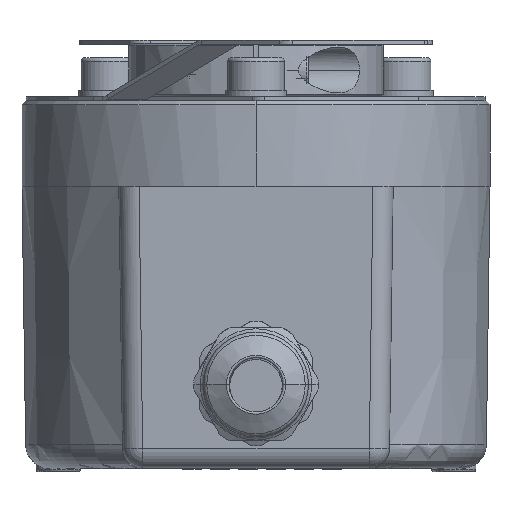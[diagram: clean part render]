
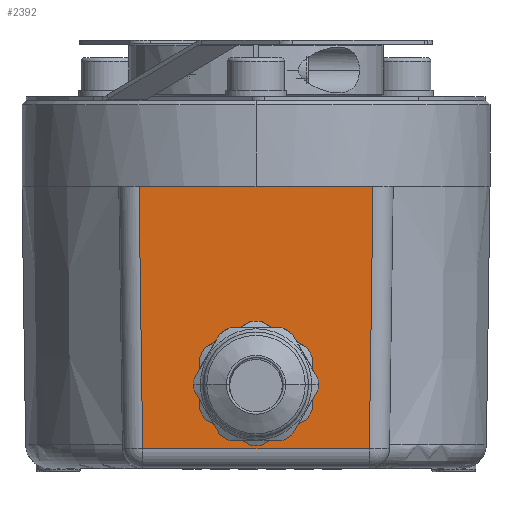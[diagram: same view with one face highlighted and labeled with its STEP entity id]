
A CAD part, front view. The second image highlights one B-rep face of the part: STEP entity #2392.
In plain terms, the highlighted planar face has unit normal (0, -1, -0.014).
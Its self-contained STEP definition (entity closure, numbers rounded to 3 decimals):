
#267 = EDGE_CURVE ( 'NONE', #4330, #6310, #12661, .T. ) ;
#463 = CARTESIAN_POINT ( 'NONE',  ( -4.387, -28.613, 7.283 ) ) ;
#478 = EDGE_CURVE ( 'NONE', #2492, #3950, #2635, .T. ) ;
#880 =( BOUNDED_CURVE ( )  B_SPLINE_CURVE ( 3, ( #10023, #3351, #15225, #4719, #2152, #3597, #7373 ),
 .UNSPECIFIED., .F., .F. ) 
 B_SPLINE_CURVE_WITH_KNOTS ( ( 4, 3, 4 ),
 ( 0.868, 3.142, 5.415 ),
 .UNSPECIFIED. ) 
 CURVE ( )  GEOMETRIC_REPRESENTATION_ITEM ( )  RATIONAL_B_SPLINE_CURVE ( ( 1., 0.614, 0.614, 1., 0.614, 0.614, 1. ) ) 
 REPRESENTATION_ITEM ( '' )  );
#2152 = CARTESIAN_POINT ( 'NONE',  ( -5.668, -28.745, 16.75 ) ) ;
#2298 = AXIS2_PLACEMENT_3D ( 'NONE', #11413, #9891, #15089 ) ;
#2299 = LINE ( 'NONE', #15295, #13174 ) ;
#2392 = ADVANCED_FACE ( 'NONE', ( #12546, #4999 ), #12629, .T. ) ;
#2492 = VERTEX_POINT ( 'NONE', #5953 ) ;
#2635 = LINE ( 'NONE', #16810, #6123 ) ;
#2807 = DIRECTION ( 'NONE',  ( 0., -1., -0.014 ) ) ;
#3170 = VERTEX_POINT ( 'NONE', #12420 ) ;
#3351 = CARTESIAN_POINT ( 'NONE',  ( 8.051, -28.673, 11.608 ) ) ;
#3597 = CARTESIAN_POINT ( 'NONE',  ( -8.051, -28.673, 11.608 ) ) ;
#3946 = VERTEX_POINT ( 'NONE', #463 ) ;
#3950 = VERTEX_POINT ( 'NONE', #16098 ) ;
#4330 = VERTEX_POINT ( 'NONE', #8226 ) ;
#4589 = VECTOR ( 'NONE', #5227, 1000. ) ;
#4719 = CARTESIAN_POINT ( 'NONE',  ( 0., -28.745, 16.75 ) ) ;
#4999 = FACE_OUTER_BOUND ( 'NONE', #10737, .T. ) ;
#5227 = DIRECTION ( 'NONE',  ( 1., 0., 0. ) ) ;
#5577 = CARTESIAN_POINT ( 'NONE',  ( 14.5, -29., 35. ) ) ;
#5953 = CARTESIAN_POINT ( 'NONE',  ( -14.5, -29., 35. ) ) ;
#6123 = VECTOR ( 'NONE', #9136, 1000. ) ;
#6232 = DIRECTION ( 'NONE',  ( 0.014, -0.014, 1. ) ) ;
#6310 = VERTEX_POINT ( 'NONE', #11227 ) ;
#7134 = LINE ( 'NONE', #16262, #9018 ) ;
#7342 = ORIENTED_EDGE ( 'NONE', *, *, #11830, .F. ) ;
#7373 = CARTESIAN_POINT ( 'NONE',  ( -4.387, -28.613, 7.283 ) ) ;
#8027 = DIRECTION ( 'NONE',  ( 0., 0.014, -1. ) ) ;
#8226 = CARTESIAN_POINT ( 'NONE',  ( -14.046, -28.546, 2.465 ) ) ;
#8679 = EDGE_CURVE ( 'NONE', #2492, #4330, #7134, .T. ) ;
#8990 = LINE ( 'NONE', #11727, #4589 ) ;
#9018 = VECTOR ( 'NONE', #12358, 1000. ) ;
#9136 = DIRECTION ( 'NONE',  ( 1., 0., 0. ) ) ;
#9529 = ORIENTED_EDGE ( 'NONE', *, *, #14406, .F. ) ;
#9663 = ORIENTED_EDGE ( 'NONE', *, *, #15962, .T. ) ;
#9891 = DIRECTION ( 'NONE',  ( 0., -1., -0.014 ) ) ;
#10023 = CARTESIAN_POINT ( 'NONE',  ( 4.387, -28.613, 7.283 ) ) ;
#10737 = EDGE_LOOP ( 'NONE', ( #10830, #16815, #11572, #9663, #14131 ) ) ;
#10830 = ORIENTED_EDGE ( 'NONE', *, *, #478, .F. ) ;
#11227 = CARTESIAN_POINT ( 'NONE',  ( 14.046, -28.546, 2.465 ) ) ;
#11366 = DIRECTION ( 'NONE',  ( 1., 0., 0. ) ) ;
#11413 = CARTESIAN_POINT ( 'NONE',  ( 17., -29., 35. ) ) ;
#11572 = ORIENTED_EDGE ( 'NONE', *, *, #267, .T. ) ;
#11727 = CARTESIAN_POINT ( 'NONE',  ( 17., -29., 35. ) ) ;
#11830 = EDGE_CURVE ( 'NONE', #3170, #3946, #880, .T. ) ;
#12358 = DIRECTION ( 'NONE',  ( 0.014, 0.014, -1. ) ) ;
#12420 = CARTESIAN_POINT ( 'NONE',  ( 4.387, -28.613, 7.283 ) ) ;
#12546 = FACE_BOUND ( 'NONE', #13945, .T. ) ;
#12629 = PLANE ( 'NONE',  #2298 ) ;
#12661 = LINE ( 'NONE', #16401, #15386 ) ;
#13174 = VECTOR ( 'NONE', #6232, 1000. ) ;
#13945 = EDGE_LOOP ( 'NONE', ( #9529, #7342 ) ) ;
#14080 = VERTEX_POINT ( 'NONE', #5577 ) ;
#14131 = ORIENTED_EDGE ( 'NONE', *, *, #15519, .F. ) ;
#14149 = CIRCLE ( 'NONE', #16855, 5.5 ) ;
#14406 = EDGE_CURVE ( 'NONE', #3946, #3170, #14149, .T. ) ;
#15089 = DIRECTION ( 'NONE',  ( 0., -0.014, 1. ) ) ;
#15225 = CARTESIAN_POINT ( 'NONE',  ( 5.668, -28.745, 16.75 ) ) ;
#15295 = CARTESIAN_POINT ( 'NONE',  ( 14.501, -29., 35.035 ) ) ;
#15386 = VECTOR ( 'NONE', #11366, 1000. ) ;
#15519 = EDGE_CURVE ( 'NONE', #3950, #14080, #8990, .T. ) ;
#15544 = CARTESIAN_POINT ( 'NONE',  ( 0., -28.659, 10.6 ) ) ;
#15962 = EDGE_CURVE ( 'NONE', #6310, #14080, #2299, .T. ) ;
#16098 = CARTESIAN_POINT ( 'NONE',  ( 0., -29., 35. ) ) ;
#16262 = CARTESIAN_POINT ( 'NONE',  ( -14.494, -28.994, 34.56 ) ) ;
#16401 = CARTESIAN_POINT ( 'NONE',  ( 17., -28.546, 2.465 ) ) ;
#16810 = CARTESIAN_POINT ( 'NONE',  ( 17., -29., 35. ) ) ;
#16815 = ORIENTED_EDGE ( 'NONE', *, *, #8679, .T. ) ;
#16855 = AXIS2_PLACEMENT_3D ( 'NONE', #15544, #2807, #8027 ) ;
